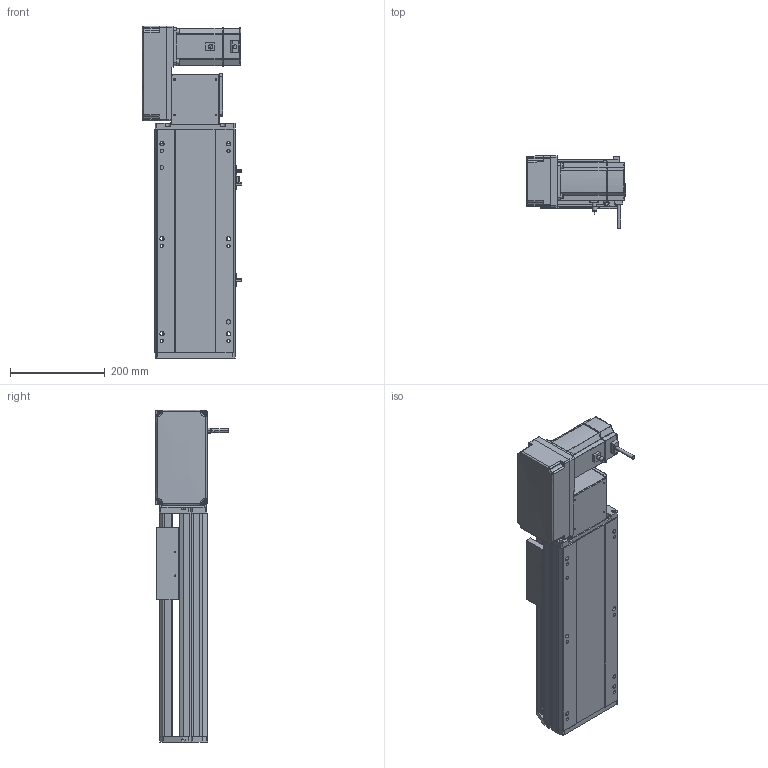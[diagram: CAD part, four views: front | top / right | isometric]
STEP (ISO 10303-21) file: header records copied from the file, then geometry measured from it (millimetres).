
FILE_DESCRIPTION (( 'STEP AP214' ), '1' );
FILE_NAME ('RTB17S-XX-200-L-M75-C4.STEP', '2025-12-12T00:07:18', ( '' ), ( '' ), 'SwSTEP 2.0', 'SolidWorks 2018', '' );
FILE_SCHEMA (( 'AUTOMOTIVE_DESIGN' ));
Length unit declared in the file: millimetre
Products named in the file (15): RTB22S-GY-017P^RTB17S-L-々湍釱蚾饜-750W_RTB17S-XX-XX-L-M75-C4; RTB17S-賑釱^RTB17S-XX-XX-L-M75-C4; RTB17S-XX-200-L-M75-C4; RTB22S-GY-005P^RTB17S-L-々湍釱蚾饜-750W_RTB17S-XX-XX-L-M75-C4; RTB22S-GY-008-M75--萇儂啣^RTB17S-L-々湍釱蚾饜-750W_RTB17S-XX-XX-L-M75-C4; EE672^RTB17S-XX-XX-L-M75-C4; RTB17-R-011菁釱^RTB17S-XX-XX-L-M75-C4; RMP17S-L-014-T20-P75--々湍釱^RTB17S-L-々湍釱蚾饜-750W_RTB17S-XX-XX-L-M75-C4; RTH13-BL-012覜茼え俋离^RTB17S-賑釱_RTB17S-XX-XX-L-M75-C4; RTB22S-GY-018P^RTB17S-L-々湍釱蚾饜-750W_RTB17S-XX-XX-L-M75-C4; RTB17S-L-004-賑釱^RTB17S-賑釱_RTB17S-XX-XX-L-M75-C4; 750W萇儂^RTB17S-XX-XX-L-M75-C4; RTB17S-L-007奻裔^RTB17S-XX-XX-L-M75-C4; RTB17S-L-々湍釱蚾饜-750W^RTB17S-XX-XX-L-M75-C4; RTB17S-L-001-耜醱啣^RTB17S-XX-XX-L-M75-C4
Assembly tree (17 placements, depth 3):
  RTB17S-XX-200-L-M75-C4
    RTB17-R-011菁釱^RTB17S-XX-XX-L-M75-C4
    EE672^RTB17S-XX-XX-L-M75-C4  x3
    RTB17S-L-001-耜醱啣^RTB17S-XX-XX-L-M75-C4
    RTB17S-賑釱^RTB17S-XX-XX-L-M75-C4
      RTB17S-L-004-賑釱^RTB17S-賑釱_RTB17S-XX-XX-L-M75-C4
      RTH13-BL-012覜茼え俋离^RTB17S-賑釱_RTB17S-XX-XX-L-M75-C4
    RTB17S-L-007奻裔^RTB17S-XX-XX-L-M75-C4
    750W萇儂^RTB17S-XX-XX-L-M75-C4
    RTB17S-L-々湍釱蚾饜-750W^RTB17S-XX-XX-L-M75-C4
      RMP17S-L-014-T20-P75--々湍釱^RTB17S-L-々湍釱蚾饜-750W_RTB17S-XX-XX-L-M75-C4
      RTB22S-GY-005P^RTB17S-L-々湍釱蚾饜-750W_RTB17S-XX-XX-L-M75-C4
      RTB22S-GY-017P^RTB17S-L-々湍釱蚾饜-750W_RTB17S-XX-XX-L-M75-C4  x2
      RTB22S-GY-008-M75--萇儂啣^RTB17S-L-々湍釱蚾饜-750W_RTB17S-XX-XX-L-M75-C4
      RTB22S-GY-018P^RTB17S-L-々湍釱蚾饜-750W_RTB17S-XX-XX-L-M75-C4
Bounding box: 210.4 x 152.7 x 699 mm (x, y, z)
Volume: 7202833.1 mm3; surface area: 1087356.4 mm2
Topology: 17 solids, 17 shells, 2025 faces, 5566 edges, 3590 vertices
Faces by surface type: plane 962, cylinder 647, bspline 294, cone 110, sphere 8, torus 4
Entity records: 55030 total; most frequent: CARTESIAN_POINT 16030, ORIENTED_EDGE 7976, DIRECTION 7502, EDGE_CURVE 3988, AXIS2_PLACEMENT_3D 2610, VERTEX_POINT 2594, VECTOR 2282, LINE 2282
